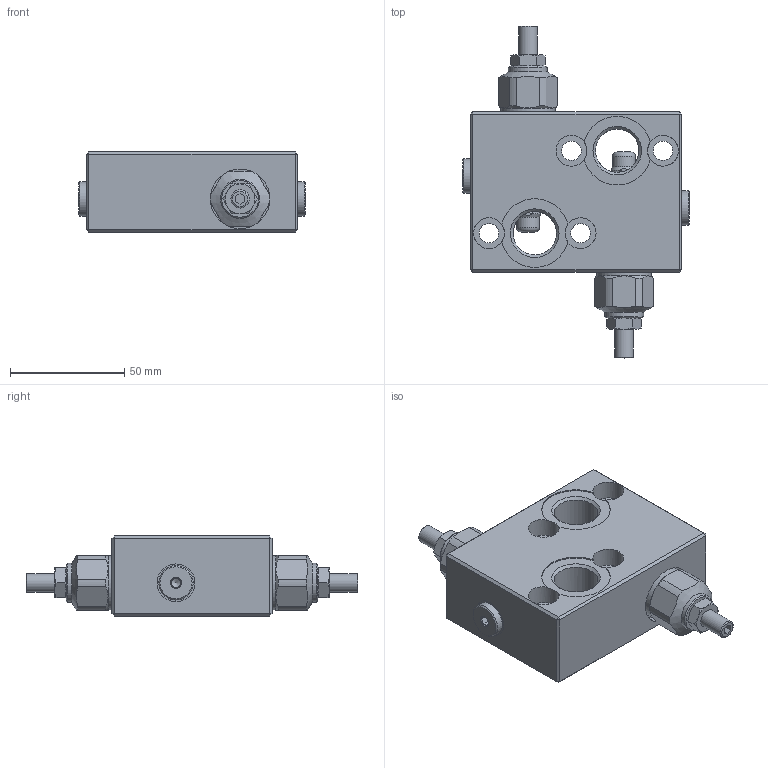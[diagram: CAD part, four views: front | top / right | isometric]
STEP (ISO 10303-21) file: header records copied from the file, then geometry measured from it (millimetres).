
FILE_DESCRIPTION (( 'STEP AP214' ), '1' );
FILE_NAME ('DCF1202.STEP', '2020-06-16T11:47:55', ( '' ), ( '' ), 'SwSTEP 2.0', 'SolidWorks 2017', '' );
FILE_SCHEMA (( 'AUTOMOTIVE_DESIGN' ));
Length unit declared in the file: millimetre
Products named in the file (1): DCF1202
Bounding box: 99 x 145 x 35 mm (x, y, z)
Volume: 197259.8 mm3; surface area: 64228.3 mm2
Topology: 21 solids, 25 shells, 484 faces, 1107 edges, 680 vertices
Faces by surface type: plane 198, cylinder 116, cone 116, bspline 28, torus 26
Full cylindrical faces by diameter (mm): 4 x2, 4.5 x8, 5.5 x2, 6.8 x4, 7 x2, 7.8 x2, 8 x4, 8.4 x4, 8.5 x4, 8.75 x4, 9.728 x2, 10 x2, 10.551 x2, 10.886 x2, 11.6 x2, 12.5 x2, 13 x4, 13.5 x6, 14 x2, 14.5 x2, 14.6 x2, 15 x2, 16.5 x2, 17 x2, 17.5 x2, 17.7 x2, 18.5 x2, 19 x2, 20 x2, 23.7 x2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
Entity records: 25938 total; most frequent: CARTESIAN_POINT 10871, DIRECTION 1936, ORIENTED_EDGE 1676, AXIS2_PLACEMENT_3D 849, EDGE_CURVE 838, EDGE_LOOP 756, VERTEX_POINT 620, FACE_OUTER_BOUND 600
